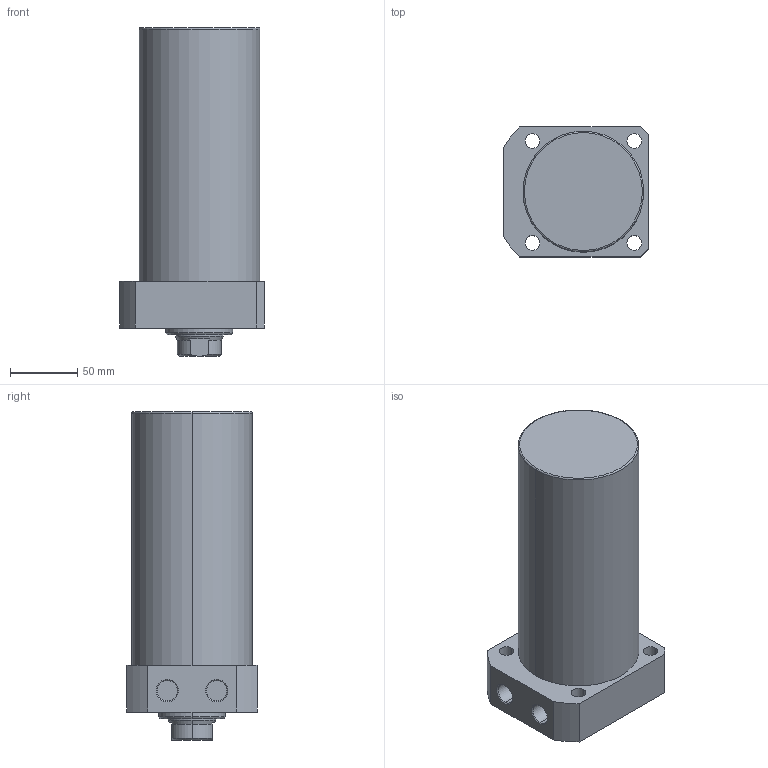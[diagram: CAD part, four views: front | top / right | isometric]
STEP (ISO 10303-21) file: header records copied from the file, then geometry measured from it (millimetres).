
FILE_DESCRIPTION (( 'STEP AP203' ), '1' );
FILE_NAME ('CLLR-090CA-145.STEP', '2019-12-18T06:30:18', ( '' ), ( '' ), 'SwSTEP 2.0', 'SolidWorks 2015', '' );
FILE_SCHEMA (( 'CONFIG_CONTROL_DESIGN' ));
Length unit declared in the file: millimetre
Products named in the file (1): CLLR-090CA-145
Bounding box: 108 x 97 x 245 mm (x, y, z)
Volume: 1551271.5 mm3; surface area: 98525.9 mm2
Topology: 1 solids, 1 shells, 65 faces, 151 edges, 94 vertices
Faces by surface type: cylinder 29, plane 19, cone 15, torus 2
Entity records: 1977 total; most frequent: CARTESIAN_POINT 357, DIRECTION 350, ORIENTED_EDGE 298, EDGE_CURVE 149, AXIS2_PLACEMENT_3D 143, VERTEX_POINT 94, EDGE_LOOP 81, CIRCLE 77
